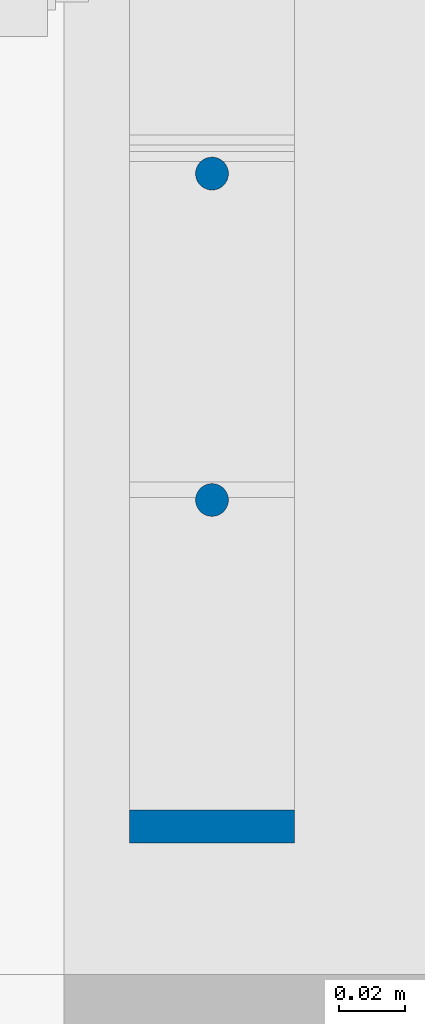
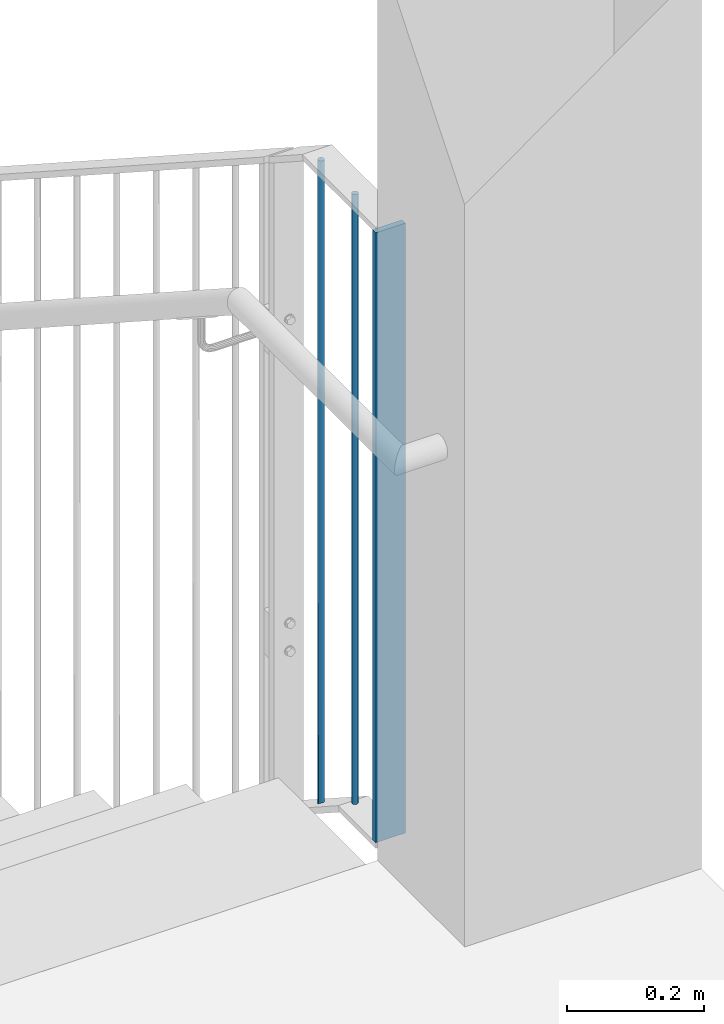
# One storey, part 26 of 296: 3 columns.
"""IFC2X3 building model written with IfcOpenShell, lengths in millimetres."""

from ifc_helpers import new_model, entity, si_unit, converted_unit, frame, origin, origin_with_axes, origin_2d, place, context, project, spatial, rectangle, circle, extrude, clip, halfspace, material, element, save


model = new_model("IFC2X3")

# Units and contexts
model_context = context("Model", 3, precision=1e-09, world=origin_with_axes())
ifc_project = project(units=[si_unit("LENGTHUNIT", "METRE", prefix="MILLI"), si_unit("AREAUNIT", "SQUARE_METRE"), si_unit("VOLUMEUNIT", "CUBIC_METRE"), converted_unit("PLANEANGLEUNIT", "DEGREE", entity("IfcPlaneAngleMeasure", 0.01745329), si_unit("PLANEANGLEUNIT", "RADIAN"), dimensions=[0, 0, 0, 0, 0, 0, 0])], contexts=[model_context])

# Site, building, storey
site_placement = place(None, origin_with_axes())
site = spatial("IfcSite", under=ifc_project, at=site_placement, Name="TZD-S?d | Treppenhausgel?nder", CompositionType="ELEMENT")
building_placement = place(site_placement, origin_with_axes())
building = spatial("IfcBuilding", under=site, at=building_placement, Name="Struktur 1", CompositionType="ELEMENT")
storey_placement = place(building_placement, origin_with_axes())
storey = spatial("IfcBuildingStorey", under=building, at=storey_placement, Name="Default Storey", CompositionType="ELEMENT", Elevation=0.0)

# Columns
ifc_material = material(Name="S235JR")
column_1_placement = place(None, frame((5894.999, -3531.666666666, 4825.075033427), z_axis=(0.0, 0.0, -1.0), x_axis=(0.0, 1.0, 0.0)))
element("IfcColumn", 1, at=column_1_placement, inside=storey, material=ifc_material, Name="-", ObjectType="-", context=model_context, shape_type="Clipping", body=[
    clip(extrude(circle(Radius=5.0, at=origin_2d()), origin(), (0.0, 0.0, -1.0), 1164.924966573), halfspace(frame((4697.085751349, -5894.999, 3022.599499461), z_axis=(0.542959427, 0.0, -0.83975893), x_axis=(0.0, -1.0, 0.0)), True)),
])
column_2_placement = place(None, frame((5894.999, -3730.0, 4900.0), z_axis=(0.0, 0.0, -1.0), x_axis=(0.0, 1.0, 0.0)))
element("IfcColumn", 2, at=column_2_placement, inside=storey, material=ifc_material, Name="-", ObjectType="-", context=model_context, shape_type="SweptSolid", body=[
    extrude(rectangle(XDim=10.0, YDim=50.0, at=origin_2d()), origin(), (0.0, 0.0, -1.0), 1090.0),
])
column_3_placement = place(None, frame((5894.999, -3630.833333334, 4900.0), z_axis=(0.0, 0.0, -1.0), x_axis=(0.0, 1.0, 0.0)))
element("IfcColumn", 3, at=column_3_placement, inside=storey, material=ifc_material, Name="-", ObjectType="-", context=model_context, shape_type="SweptSolid", body=[
    extrude(circle(Radius=5.0, at=origin_2d()), origin(), (0.0, 0.0, -1.0), 1090.0),
])

save(model, "model.ifc")
